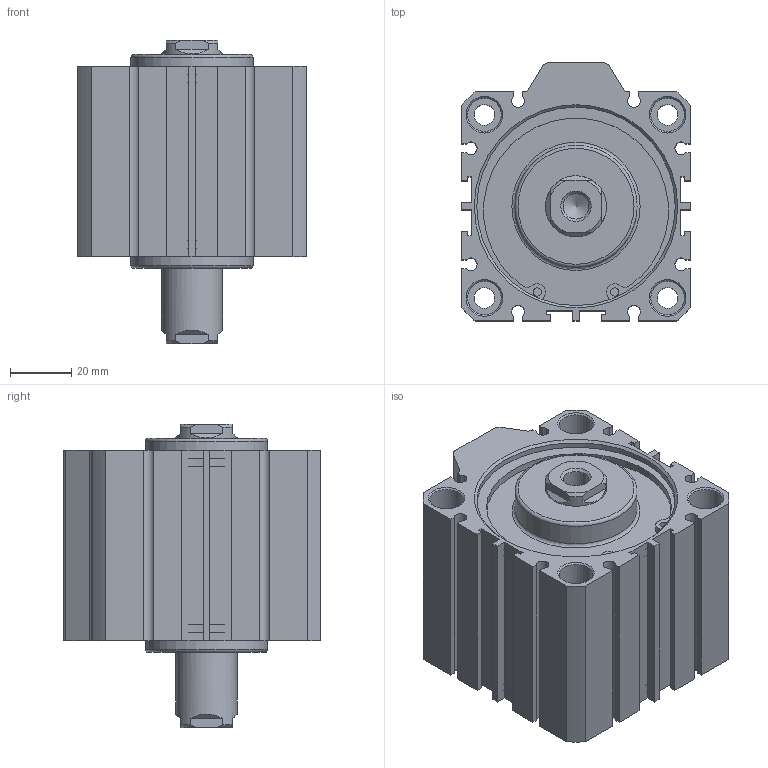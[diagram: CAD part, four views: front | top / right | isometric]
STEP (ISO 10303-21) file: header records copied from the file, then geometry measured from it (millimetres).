
FILE_DESCRIPTION((''),'2;1');
FILE_NAME('I:\3D電子目錄\氣缸\JDD\JDD-S\JDD63-S\JDD63x20-S.stp','2007-02-09T08:52:22',('662F206'),(''),'Autodesk Inventor 10','Autodesk Inventor 10','');
FILE_SCHEMA(('AUTOMOTIVE_DESIGN { 1 0 10303 214 1 1 1 1 }'));
Length unit declared in the file: millimetre
Products named in the file (3): JDD63-S; R 形環 65
Assembly tree (3 placements, depth 2):
  JDD63-S
    JDD63-S
    R 形環 65  x2
Bounding box: 75 x 84.5 x 99.5 mm (x, y, z)
Volume: 327873.4 mm3; surface area: 58031.1 mm2
Topology: 3 solids, 3 shells, 204 faces, 514 edges, 338 vertices
Faces by surface type: plane 116, cylinder 56, cone 24, bspline 6, torus 2
Full cylindrical faces by diameter (mm): 2.7 x4, 3 x2, 6.8 x4, 11 x8, 20 x2, 40 x2, 65 x4, 68 x2
Entity records: 5651 total; most frequent: CARTESIAN_POINT 1118, DIRECTION 936, ORIENTED_EDGE 848, EDGE_CURVE 424, AXIS2_PLACEMENT_3D 336, VERTEX_POINT 308, EDGE_LOOP 276, VECTOR 264
